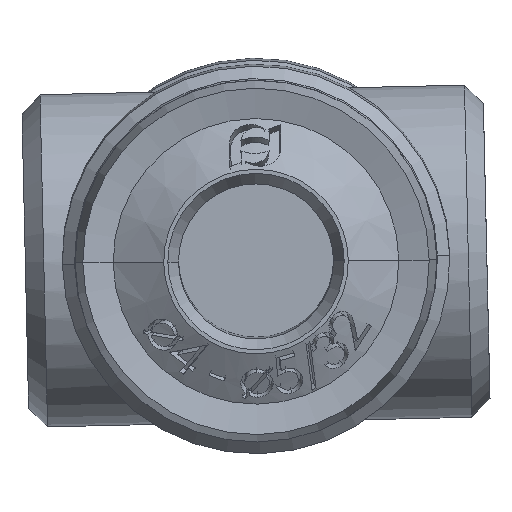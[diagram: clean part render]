
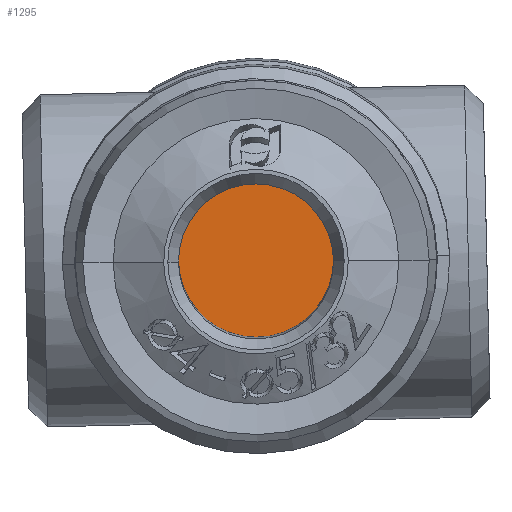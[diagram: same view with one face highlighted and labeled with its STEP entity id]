
A CAD part, left-side view. The second image highlights one B-rep face of the part: STEP entity #1295.
In plain terms, the highlighted planar face has unit normal (-1, 0, -0.008).
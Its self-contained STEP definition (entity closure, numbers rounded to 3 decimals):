
#783 = ORIENTED_EDGE ( 'NONE', *, *, #25010, .T. ) ;
#785 = ORIENTED_EDGE ( 'NONE', *, *, #22919, .T. ) ;
#1295 = ADVANCED_FACE ( 'NONE', ( #5921 ), #12953, .T. ) ;
#3487 = CARTESIAN_POINT ( 'NONE',  ( 159.411, -31.506, -25.401 ) ) ;
#3488 = CARTESIAN_POINT ( 'NONE',  ( 159.411, -27.307, -25.434 ) ) ;
#5921 = FACE_OUTER_BOUND ( 'NONE', #9830, .T. ) ;
#9830 = EDGE_LOOP ( 'NONE', ( #783, #785 ) ) ;
#11628 = CARTESIAN_POINT ( 'NONE',  ( 159.411, -29.406, -25.418 ) ) ;
#11629 = DIRECTION ( 'NONE',  ( -1., 0., -0.008 ) ) ;
#11630 = DIRECTION ( 'NONE',  ( 0., -1., 0.008 ) ) ;
#12953 = PLANE ( 'NONE',  #23264 ) ;
#12961 = CARTESIAN_POINT ( 'NONE',  ( 159.411, -29.406, -25.418 ) ) ;
#12962 = DIRECTION ( 'NONE',  ( -1., 0., -0.008 ) ) ;
#12963 = DIRECTION ( 'NONE',  ( -0.008, 0., 1. ) ) ;
#14265 = CIRCLE ( 'NONE', #21832, 2.1 ) ;
#14297 = CIRCLE ( 'NONE', #21851, 2.1 ) ;
#16472 = CARTESIAN_POINT ( 'NONE',  ( 159.411, -29.406, -25.418 ) ) ;
#16473 = DIRECTION ( 'NONE',  ( -1., 0., -0.008 ) ) ;
#16474 = DIRECTION ( 'NONE',  ( 0., -1., 0.008 ) ) ;
#20536 = VERTEX_POINT ( 'NONE', #3487 ) ;
#20537 = VERTEX_POINT ( 'NONE', #3488 ) ;
#21832 = AXIS2_PLACEMENT_3D ( 'NONE', #11628, #11629, #11630 ) ;
#21851 = AXIS2_PLACEMENT_3D ( 'NONE', #16472, #16473, #16474 ) ;
#22919 = EDGE_CURVE ( 'NONE', #20537, #20536, #14265, .T. ) ;
#23264 = AXIS2_PLACEMENT_3D ( 'NONE', #12961, #12962, #12963 ) ;
#25010 = EDGE_CURVE ( 'NONE', #20536, #20537, #14297, .T. ) ;
